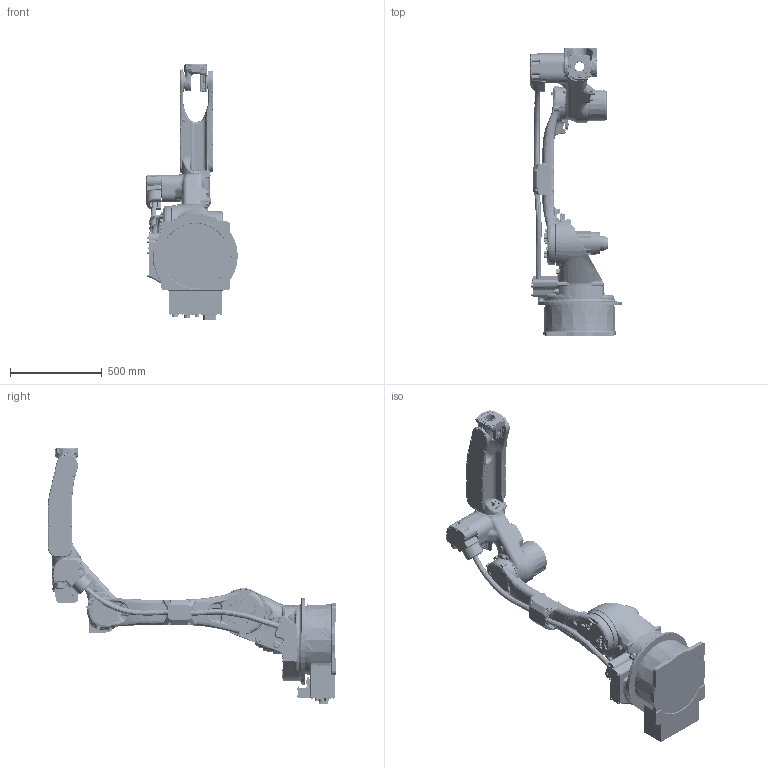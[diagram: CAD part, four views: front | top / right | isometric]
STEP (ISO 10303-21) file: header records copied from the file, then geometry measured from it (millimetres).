
FILE_DESCRIPTION((''),'2;1');
FILE_NAME('GP25-C00_ASM','2018-06-04T',('ip-naka'),('YASKAWA ELECTRIC CORPORATION'),'PRO/ENGINEER BY PARAMETRIC TECHNOLOGY CORPORATION, 2015030','PRO/ENGINEER BY PARAMETRIC TECHNOLOGY CORPORATION, 2015030','');
FILE_SCHEMA(('CONFIG_CONTROL_DESIGN'));
Products named in the file (8): GP25-C00_S-BASE; GP25-C00_S-AXIS; GP25-C00_L-AXIS; GP25-C00_U-AXIS; GP25-C00_R-AXIS; GP25-C00_B-AXIS; GP25-C00_T-AXIS; GP25-C00_ASM
Assembly tree (7 placements, depth 2):
  GP25-C00_ASM
    GP25-C00_S-BASE
    GP25-C00_S-AXIS
    GP25-C00_L-AXIS
    GP25-C00_U-AXIS
    GP25-C00_R-AXIS
    GP25-C00_B-AXIS
    GP25-C00_T-AXIS
Bounding box: 496.8 x 1568 x 1394.85 mm (x, y, z)
Volume: 82772029.2 mm3; surface area: 3870264.5 mm2
Topology: 7 solids, 81 shells, 8682 faces, 21089 edges, 13015 vertices
Faces by surface type: cylinder 2986, plane 2730, bspline 1461, torus 710, cone 679, sphere 116
Entity records: 392422 total; most frequent: CARTESIAN_POINT 196209, ORIENTED_EDGE 41902, DIRECTION 40209, EDGE_CURVE 21001, AXIS2_PLACEMENT_3D 16151, VERTEX_POINT 13015, EDGE_LOOP 9400, CIRCLE 8907
